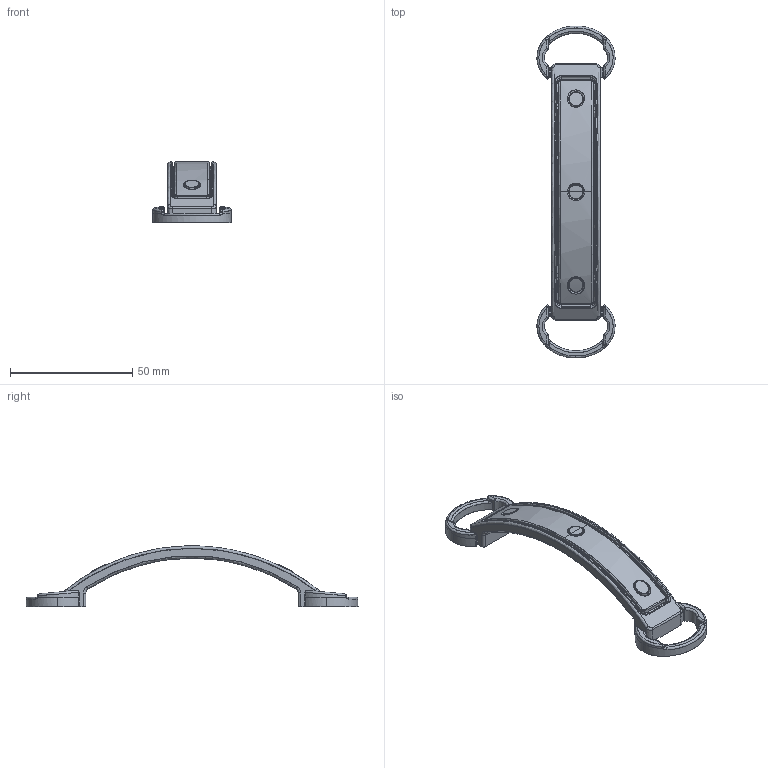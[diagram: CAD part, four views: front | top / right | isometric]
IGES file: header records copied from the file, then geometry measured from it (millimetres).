
Start section: C
Global section: file name: 8092.igs; native system: By Siemens PLM Incorporated; preprocessor: XPlus GENERIC/IGES 16.0.42; author: Author; organization: Title; date: 20190519.072411; units: millimetre
Bounding box: 32 x 135.94 x 25.3 mm (x, y, z)
Surface area: 12180.9 mm2 (no closed solid volume)
Topology: 0 solids, 0 shells, 294 faces, 1500 edges, 1484 vertices
Faces by surface type: bspline 294
